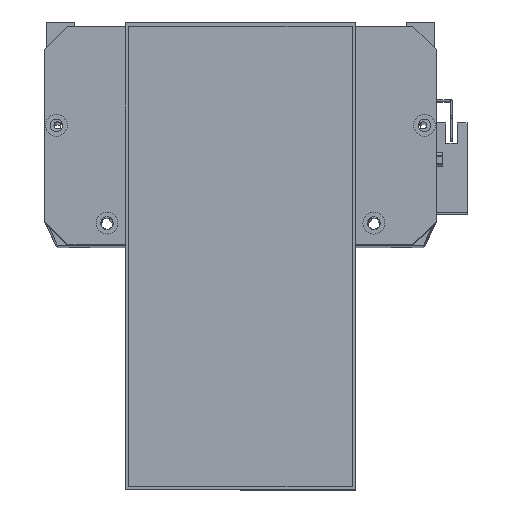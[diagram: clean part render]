
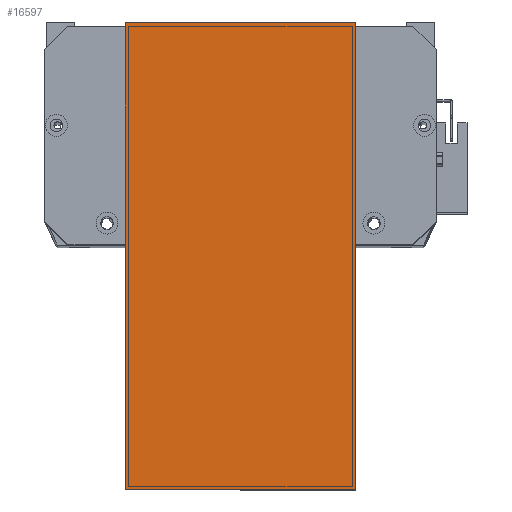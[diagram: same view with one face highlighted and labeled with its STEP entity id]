
A CAD part, top view. The second image highlights one B-rep face of the part: STEP entity #16597.
In plain terms, the highlighted planar face has unit normal (0, 0, 1) as drawn and (0, 0, -1) by its records, which use the part's own axes.
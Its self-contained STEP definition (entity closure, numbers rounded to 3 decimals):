
#132 = VECTOR ( 'NONE', #2206, 1000. ) ;
#1294 = FACE_OUTER_BOUND ( 'NONE', #5732, .T. ) ;
#2206 = DIRECTION ( 'NONE',  ( 1., 0., 0. ) ) ;
#2350 = CARTESIAN_POINT ( 'NONE',  ( 0., 0., 0. ) ) ;
#3118 = EDGE_CURVE ( 'NONE', #28168, #4489, #9737, .T. ) ;
#3955 = VECTOR ( 'NONE', #8914, 1000. ) ;
#4489 = VERTEX_POINT ( 'NONE', #7302 ) ;
#5688 = DIRECTION ( 'NONE',  ( -1., 0., 0. ) ) ;
#5732 = EDGE_LOOP ( 'NONE', ( #19932, #13307, #24918, #9784 ) ) ;
#7302 = CARTESIAN_POINT ( 'NONE',  ( 0., 19.5, 0. ) ) ;
#7891 = CARTESIAN_POINT ( 'NONE',  ( 203., 119.5, 0. ) ) ;
#8914 = DIRECTION ( 'NONE',  ( 0., -1., 0. ) ) ;
#9639 = CARTESIAN_POINT ( 'NONE',  ( 203., 19.5, 0. ) ) ;
#9737 = LINE ( 'NONE', #2350, #3955 ) ;
#9784 = ORIENTED_EDGE ( 'NONE', *, *, #21450, .F. ) ;
#10181 = VECTOR ( 'NONE', #26951, 1000. ) ;
#10759 = DIRECTION ( 'NONE',  ( 1., 0., 0. ) ) ;
#12151 = PLANE ( 'NONE',  #13003 ) ;
#13003 = AXIS2_PLACEMENT_3D ( 'NONE', #20751, #18669, #5688 ) ;
#13307 = ORIENTED_EDGE ( 'NONE', *, *, #3118, .F. ) ;
#15294 = LINE ( 'NONE', #24760, #10181 ) ;
#16597 = ADVANCED_FACE ( 'NONE', ( #1294 ), #12151, .T. ) ;
#17199 = CARTESIAN_POINT ( 'NONE',  ( -12., 19.5, 0. ) ) ;
#17441 = LINE ( 'NONE', #26055, #132 ) ;
#18669 = DIRECTION ( 'NONE',  ( 0., 0., -1. ) ) ;
#19275 = VERTEX_POINT ( 'NONE', #9639 ) ;
#19932 = ORIENTED_EDGE ( 'NONE', *, *, #23417, .F. ) ;
#20582 = VECTOR ( 'NONE', #10759, 1000. ) ;
#20751 = CARTESIAN_POINT ( 'NONE',  ( 0., 0., 0. ) ) ;
#21450 = EDGE_CURVE ( 'NONE', #19275, #25716, #15294, .T. ) ;
#23417 = EDGE_CURVE ( 'NONE', #4489, #19275, #27071, .T. ) ;
#24760 = CARTESIAN_POINT ( 'NONE',  ( 203., 0., 0. ) ) ;
#24918 = ORIENTED_EDGE ( 'NONE', *, *, #27695, .T. ) ;
#25716 = VERTEX_POINT ( 'NONE', #7891 ) ;
#26055 = CARTESIAN_POINT ( 'NONE',  ( -12., 119.5, 0. ) ) ;
#26951 = DIRECTION ( 'NONE',  ( 0., 1., 0. ) ) ;
#27071 = LINE ( 'NONE', #17199, #20582 ) ;
#27551 = CARTESIAN_POINT ( 'NONE',  ( 0., 119.5, 0. ) ) ;
#27695 = EDGE_CURVE ( 'NONE', #28168, #25716, #17441, .T. ) ;
#28168 = VERTEX_POINT ( 'NONE', #27551 ) ;
